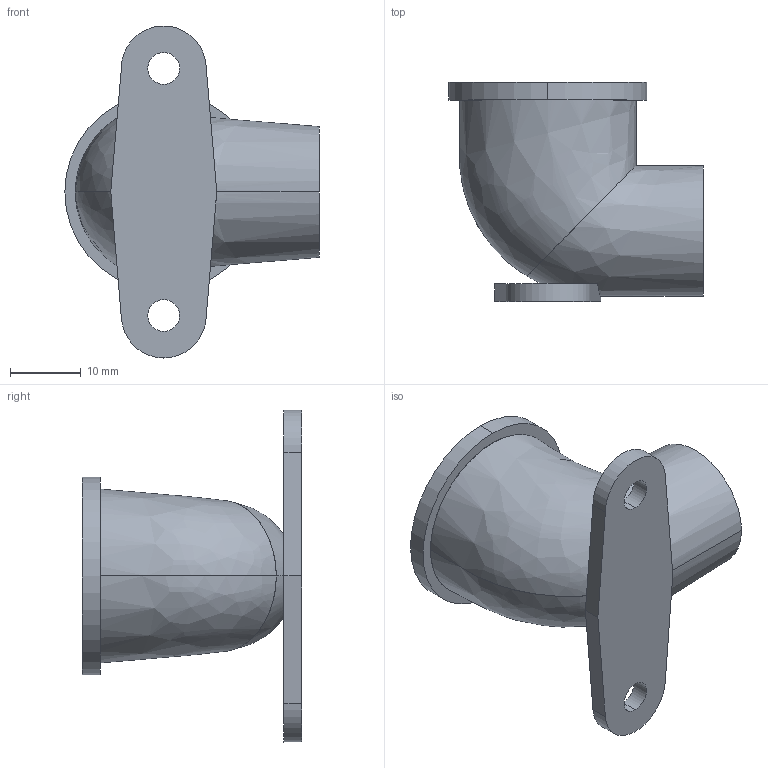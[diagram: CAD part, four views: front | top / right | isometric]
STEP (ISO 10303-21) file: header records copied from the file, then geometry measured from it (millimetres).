
FILE_DESCRIPTION((''),'2;1');
FILE_NAME('G:\SANHA-ESSEN\Entwicklung\Management\_Projekte\__STEP-Dateien_alle Serien\Serie 4000\4472g\4472 15x12\144721512_(0).stp','2011-10-13T10:58:10',('Lohse'),(''),'Autodesk Inventor 2009','Autodesk Inventor 2009','');
FILE_SCHEMA(('AUTOMOTIVE_DESIGN { 1 0 10303 214 1 1 1 1 }'));
Length unit declared in the file: millimetre
Products named in the file (1): 144721512_(0)
Bounding box: 36 x 31 x 46.99 mm (x, y, z)
Surface area: 7212.6 mm2 (no closed solid volume)
Topology: 0 solids, 52 shells, 52 faces, 441 edges, 441 vertices
Faces by surface type: cylinder 25, plane 12, bspline 9, cone 6
Entity records: 10737 total; most frequent: CARTESIAN_POINT 7575, DIRECTION 456, VERTEX_POINT 441, EDGE_CURVE 441, ORIENTED_EDGE 441, B_SPLINE_CURVE_WITH_KNOTS 210, AXIS2_PLACEMENT_3D 182, STYLED_ITEM 104
